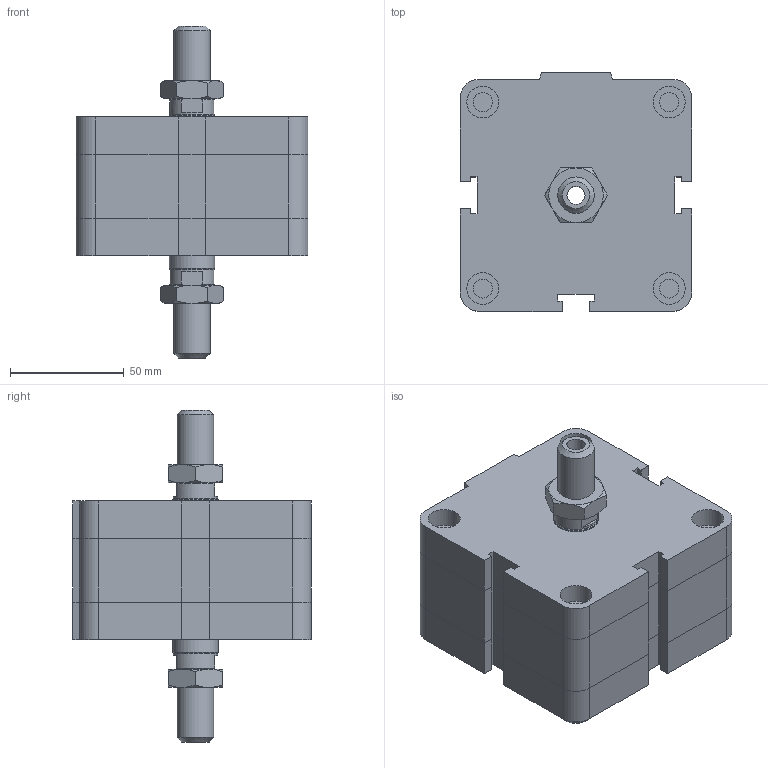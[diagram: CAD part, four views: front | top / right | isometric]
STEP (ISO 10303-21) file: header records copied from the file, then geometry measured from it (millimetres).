
FILE_DESCRIPTION((''),'2;1');
FILE_NAME('I:\Area Tecnica\Disegni\VARIE-3D\Componenti\EUROPE\15##_###_####_05_#\1581_80_0005_05_1.iam.stp','2009-04-20T15:02:45',(''),(''),'Autodesk Inventor 2009','Autodesk Inventor 2009','');
FILE_SCHEMA(('AUTOMOTIVE_DESIGN { 1 0 10303 214 1 1 1 1 }'));
Length unit declared in the file: millimetre
Products named in the file (4): 1581_80_0005_05_1; 1581_80_0005_03_1_C; 1561_80_0005_05_1_S; DBFM16
Assembly tree (4 placements, depth 2):
  1581_80_0005_05_1
    1581_80_0005_03_1_C
    1561_80_0005_05_1_S
    DBFM16  x2
Bounding box: 102 x 105 x 146 mm (x, y, z)
Volume: 616504.5 mm3; surface area: 74265.9 mm2
Topology: 4 solids, 4 shells, 223 faces, 486 edges, 291 vertices
Faces by surface type: plane 129, cone 37, bspline 32, cylinder 25
Full cylindrical faces by diameter (mm): 8.376 x4, 14 x4, 14.5 x1, 16 x1, 19.5 x2, 20 x1
Entity records: 5484 total; most frequent: CARTESIAN_POINT 1227, DIRECTION 808, ORIENTED_EDGE 776, EDGE_CURVE 388, AXIS2_PLACEMENT_3D 275, EDGE_LOOP 262, VECTOR 258, LINE 258
